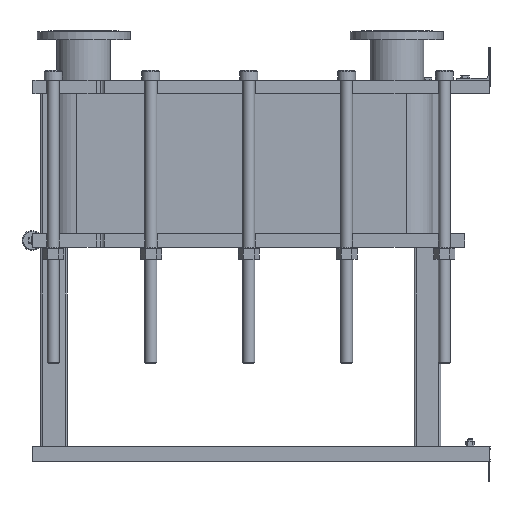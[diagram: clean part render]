
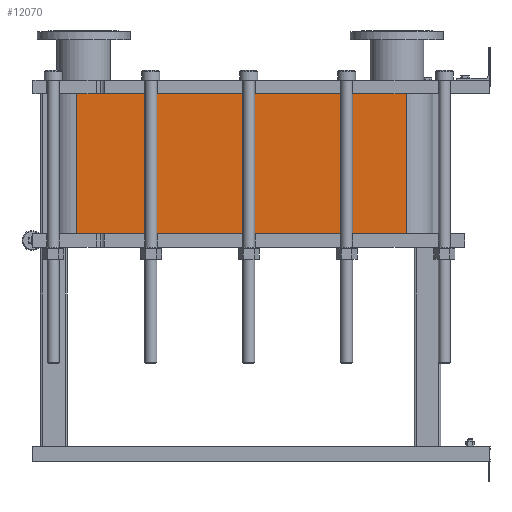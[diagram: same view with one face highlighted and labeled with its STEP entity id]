
A CAD part, left-side view. The second image highlights one B-rep face of the part: STEP entity #12070.
In plain terms, the highlighted planar face has unit normal (-1, 0, 0).
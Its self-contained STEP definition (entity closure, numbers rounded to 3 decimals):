
#1064=LINE('',#21140,#2164);
#1065=LINE('',#21144,#2165);
#1066=LINE('',#21146,#2166);
#1067=LINE('',#21147,#2167);
#2164=VECTOR('',#15790,10.);
#2165=VECTOR('',#15795,10.);
#2166=VECTOR('',#15796,10.);
#2167=VECTOR('',#15797,10.);
#3304=FACE_OUTER_BOUND('',#4091,.T.);
#4091=EDGE_LOOP('',(#9793,#9794,#9795,#9796));
#5677=VERTEX_POINT('',#21137);
#5678=VERTEX_POINT('',#21139);
#5679=VERTEX_POINT('',#21143);
#5680=VERTEX_POINT('',#21145);
#7118=EDGE_CURVE('',#5678,#5677,#1064,.T.);
#7120=EDGE_CURVE('',#5677,#5679,#1065,.T.);
#7121=EDGE_CURVE('',#5680,#5679,#1066,.T.);
#7122=EDGE_CURVE('',#5680,#5678,#1067,.T.);
#9793=ORIENTED_EDGE('',*,*,#7120,.T.);
#9794=ORIENTED_EDGE('',*,*,#7121,.F.);
#9795=ORIENTED_EDGE('',*,*,#7122,.T.);
#9796=ORIENTED_EDGE('',*,*,#7118,.T.);
#11441=PLANE('',#13191);
#12070=ADVANCED_FACE('',(#3304),#11441,.T.);
#13191=AXIS2_PLACEMENT_3D('',#21142,#15793,#15794);
#15790=DIRECTION('',(0.,0.,-1.));
#15793=DIRECTION('center_axis',(-1.,0.,0.));
#15794=DIRECTION('ref_axis',(0.,1.,0.));
#15795=DIRECTION('',(0.,-1.,0.));
#15796=DIRECTION('',(0.,0.,-1.));
#15797=DIRECTION('',(0.,1.,0.));
#21137=CARTESIAN_POINT('',(-248.152,1243.818,-420.9));
#21139=CARTESIAN_POINT('',(-248.152,1243.818,0.));
#21140=CARTESIAN_POINT('',(-248.152,1243.818,0.));
#21142=CARTESIAN_POINT('Origin',(-248.152,251.818,0.));
#21143=CARTESIAN_POINT('',(-248.152,251.818,-420.9));
#21144=CARTESIAN_POINT('',(-248.152,499.818,-420.9));
#21145=CARTESIAN_POINT('',(-248.152,251.818,0.));
#21146=CARTESIAN_POINT('',(-248.152,251.818,0.));
#21147=CARTESIAN_POINT('',(-248.152,251.818,0.));
